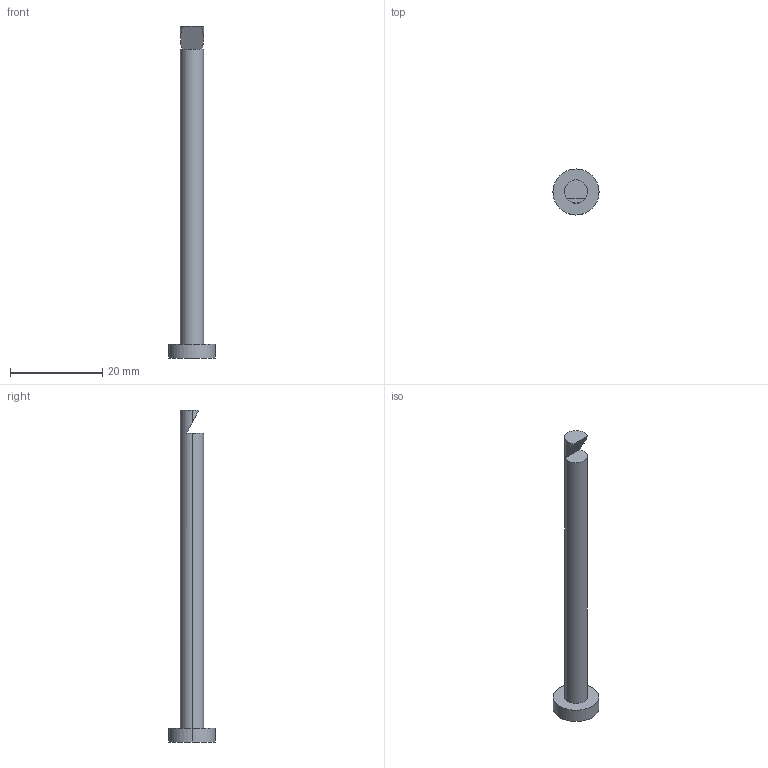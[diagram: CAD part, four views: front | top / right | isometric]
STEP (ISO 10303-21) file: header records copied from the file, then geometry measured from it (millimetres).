
FILE_DESCRIPTION (( 'STEP AP203' ), '1' );
FILE_NAME ('041 Arrache carrotte.STEP', '2021-10-27T18:30:43', ( '' ), ( '' ), 'SwSTEP 2.0', 'SolidWorks 2019', '' );
FILE_SCHEMA (( 'CONFIG_CONTROL_DESIGN' ));
Length unit declared in the file: millimetre
Products named in the file (1): 041 Arrache carrotte
Bounding box: 10 x 10 x 72 mm (x, y, z)
Volume: 1545.3 mm3; surface area: 1337.2 mm2
Topology: 1 solids, 1 shells, 11 faces, 24 edges, 16 vertices
Faces by surface type: cylinder 6, plane 5
Entity records: 387 total; most frequent: CARTESIAN_POINT 64, DIRECTION 56, ORIENTED_EDGE 48, EDGE_CURVE 24, AXIS2_PLACEMENT_3D 24, VERTEX_POINT 16, EDGE_LOOP 12, CIRCLE 12
